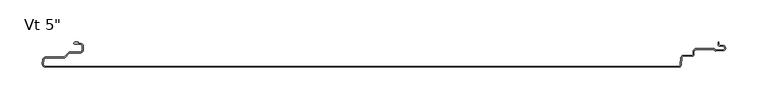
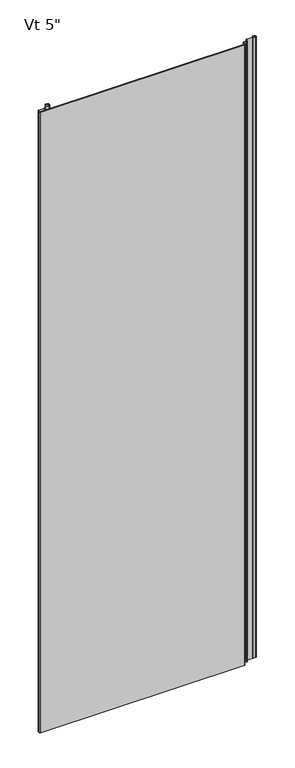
"""IFC4 building model written with IfcOpenShell, lengths in millimetres: plate geometry."""

from ifc_helpers import new_model, si_unit, point, frame_2d, origin, origin_with_axes, place, context, project, spatial, polyline, circle_curve, trimmed, segment, composite_curve, outline, extrude, source, transform, mapped, element, save


def plate_0270b506(model_context):
    return source(origin(), model_context, "Body", "SweptSolid", [
        extrude(outline(composite_curve([segment(polyline([(-417.0087549, -123.1184064), (-416.5690675, -118.094441)]), True, "CONTINUOUS"), segment(trimmed(circle_curve(frame_2d((-412.9198392, -118.7052421)), 3.6999926), [point((-416.5690675, -118.094441))], [point((-412.9198392, -115.0052495))], False, "CARTESIAN"), True, "CONTINUOUS"), segment(polyline([(-412.9198392, -115.0052495), (-391.7773997, -115.0052495)]), True, "CONTINUOUS"), segment(trimmed(circle_curve(frame_2d((-391.7773997, -113.7052521)), 1.2999974), [point((-391.7773997, -115.0052495))], [point((-390.8581627, -114.6244891))], True, "CARTESIAN"), True, "CONTINUOUS"), segment(polyline([(-390.8581627, -114.6244891), (-386.0297453, -109.7960716)]), True, "CONTINUOUS"), segment(trimmed(circle_curve(frame_2d((-384.1205608, -111.7052561)), 2.6999946), [point((-386.0297453, -109.7960716))], [point((-384.1205608, -109.0052615))], False, "CARTESIAN"), True, "CONTINUOUS"), segment(polyline([(-384.1205608, -109.0052615), (-372.3096717, -109.0052615)]), True, "CONTINUOUS"), segment(trimmed(circle_curve(frame_2d((-372.3096717, -106.6552662)), 2.3499953), [point((-372.3096717, -109.0052615))], [point((-369.9596764, -106.6552662))], True, "CARTESIAN"), True, "CONTINUOUS"), segment(polyline([(-369.9596764, -106.6552662), (-369.9596764, -102.255275)]), True, "CONTINUOUS"), segment(trimmed(circle_curve(frame_2d((-372.3096717, -102.255275)), 2.3499953), [point((-369.9596764, -102.255275))], [point((-372.3096717, -99.9052797))], True, "CARTESIAN"), True, "CONTINUOUS"), segment(polyline([(-372.3096717, -99.9052797), (-378.8289779, -99.9052797)]), True, "CONTINUOUS"), segment(trimmed(circle_curve(frame_2d((-378.7686908, -98.7067974)), 1.1999976), [point((-378.8289779, -99.9052797))], [point((-379.9683001, -98.6762755))], False, "CARTESIAN"), True, "CONTINUOUS"), segment(trimmed(circle_curve(frame_2d((-378.7686908, -98.7067974)), 1.1999976), [point((-379.9683001, -98.6762755))], [point((-378.7671761, -97.5068008))], False, "CARTESIAN"), True, "CONTINUOUS"), segment(polyline([(-378.7671761, -97.5068008), (-375.0087827, -97.5068008), (-375.0087827, -98.9052797), (-372.3096717, -98.9052797)]), True, "CONTINUOUS"), segment(trimmed(circle_curve(frame_2d((-372.3096717, -102.255275)), 3.3499953), [point((-372.3096717, -98.9052797))], [point((-368.9596764, -102.255275))], False, "CARTESIAN"), True, "CONTINUOUS"), segment(polyline([(-368.9596764, -102.255275), (-368.9596764, -106.6552662)]), True, "CONTINUOUS"), segment(trimmed(circle_curve(frame_2d((-372.3096717, -106.6552662)), 3.3499953), [point((-368.9596764, -106.6552662))], [point((-372.3096717, -110.0052615))], False, "CARTESIAN"), True, "CONTINUOUS"), segment(polyline([(-372.3096717, -110.0052615), (-384.1205608, -110.0052615)]), True, "CONTINUOUS"), segment(trimmed(circle_curve(frame_2d((-384.1205608, -111.7052561)), 1.6999946), [point((-384.1205608, -110.0052615))], [point((-385.3226385, -110.5031784))], True, "CARTESIAN"), True, "CONTINUOUS"), segment(polyline([(-385.3226385, -110.5031784), (-390.8247096, -116.0052495), (-412.9198392, -116.0052495)]), True, "CONTINUOUS"), segment(trimmed(circle_curve(frame_2d((-412.9198392, -118.7052421)), 2.6999926), [point((-412.9198392, -116.0052495))], [point((-415.5765709, -118.2238515))], True, "CARTESIAN"), True, "CONTINUOUS"), segment(polyline([(-415.5765709, -118.2238515), (-416.0125699, -123.2056723)]), True, "CONTINUOUS"), segment(trimmed(circle_curve(frame_2d((-413.4521176, -123.429758)), 2.5702393), [point((-416.0125699, -123.2056723))], [point((-413.509446, -125.9993578))], True, "CARTESIAN"), True, "CONTINUOUS"), segment(polyline([(-413.509446, -125.9993578), (332.5384359, -125.9993578)]), True, "CONTINUOUS"), segment(trimmed(circle_curve(frame_2d((332.5384359, -124.0493637)), 1.9499941), [point((332.5384359, -125.9993578))], [point((334.4810097, -124.2193169))], True, "CARTESIAN"), True, "CONTINUOUS"), segment(polyline([(334.4810097, -124.2193169), (335.2215397, -115.7550205)]), True, "CONTINUOUS"), segment(trimmed(circle_curve(frame_2d((338.2400056, -116.019102)), 3.0299959), [point((335.2215397, -115.7550205))], [point((338.3657441, -112.9917162))], False, "CARTESIAN"), True, "CONTINUOUS"), segment(polyline([(338.3657441, -112.9917162), (348.4586765, -112.9917162)]), True, "CONTINUOUS"), segment(trimmed(circle_curve(frame_2d((348.4595944, -112.0425632)), 0.9491534), [point((348.4586765, -112.9917162))], [point((349.4087478, -112.0425632))], True, "CARTESIAN"), True, "CONTINUOUS"), segment(polyline([(349.4087478, -112.0425632), (349.4087475, -108.9011631)]), True, "CONTINUOUS"), segment(trimmed(circle_curve(frame_2d((353.4087415, -108.9011631)), 3.999994), [point((349.4087475, -108.9011631))], [point((353.4087415, -104.9011691))], False, "CARTESIAN"), True, "CONTINUOUS"), segment(polyline([(353.4087415, -104.9011691), (374.5895515, -104.9011691), (375.7334028, -106.8823775), (384.706811, -106.5271172)]), True, "CONTINUOUS"), segment(trimmed(circle_curve(frame_2d((384.6236622, -104.4268886)), 2.1018739), [point((384.706811, -106.5271172))], [point((384.7037148, -102.3265397))], True, "CARTESIAN"), True, "CONTINUOUS"), segment(polyline([(384.7037148, -102.3265397), (380.6977997, -102.0821247)]), True, "CONTINUOUS"), segment(trimmed(circle_curve(frame_2d((380.8099653, -100.2437512)), 1.8417922), [point((380.6977997, -102.0821247))], [point((378.9686884, -100.2873122))], False, "CARTESIAN"), True, "CONTINUOUS"), segment(polyline([(378.9686884, -100.2873122), (378.9686884, -97.5027656), (379.9686884, -97.5027656), (379.9686884, -100.2731984)]), True, "CONTINUOUS"), segment(trimmed(circle_curve(frame_2d((380.8099653, -100.2437512)), 0.8417922), [point((379.9686884, -100.2731984))], [point((380.7587, -101.0839809))], True, "CARTESIAN"), True, "CONTINUOUS"), segment(polyline([(380.7587, -101.0839809), (384.7543204, -101.3277677)]), True, "CONTINUOUS"), segment(trimmed(circle_curve(frame_2d((384.6236622, -104.4268886)), 3.1018739), [point((384.7543204, -101.3277677))], [point((384.7463704, -107.5263344))], False, "CARTESIAN"), True, "CONTINUOUS"), segment(polyline([(384.7463704, -107.5263344), (376.0344401, -107.8712428)]), True, "CONTINUOUS"), segment(trimmed(circle_curve(frame_2d((375.987224, -106.4220146)), 1.4499971), [point((376.0344401, -107.8712428))], [point((374.7314897, -107.1470132))], False, "CARTESIAN"), True, "CONTINUOUS"), segment(polyline([(374.7314897, -107.1470132), (374.0122013, -105.9011691), (353.4087415, -105.9011691)]), True, "CONTINUOUS"), segment(trimmed(circle_curve(frame_2d((353.4087415, -108.9011631)), 2.999994), [point((353.4087415, -105.9011691))], [point((350.4087475, -108.9011631))], True, "CARTESIAN"), True, "CONTINUOUS"), segment(polyline([(350.4087475, -108.9011631), (350.4087475, -112.0425632)]), True, "CONTINUOUS"), segment(trimmed(circle_curve(frame_2d((348.4595944, -112.0425632)), 1.9491534), [point((350.4087475, -112.0425632))], [point((348.458279, -113.9917162))], False, "CARTESIAN"), True, "CONTINUOUS"), segment(polyline([(348.458279, -113.9917162), (338.3429135, -113.9917162)]), True, "CONTINUOUS"), segment(trimmed(circle_curve(frame_2d((338.2400056, -116.019102)), 2.0299959), [point((338.3429135, -113.9917162))], [point((336.2177344, -115.8421762))], True, "CARTESIAN"), True, "CONTINUOUS"), segment(polyline([(336.2177344, -115.8421762), (335.4771973, -124.3065539)]), True, "CONTINUOUS"), segment(trimmed(circle_curve(frame_2d((332.5384288, -124.049445)), 2.9499941), [point((335.4771973, -124.3065539))], [point((332.5384307, -126.9994391))], False, "CARTESIAN"), True, "CONTINUOUS"), segment(polyline([(332.5384307, -126.9994391), (-413.4521083, -126.9999161)]), True, "CONTINUOUS"), segment(trimmed(circle_curve(frame_2d((-413.4521105, -123.4296768)), 3.5702393), [point((-413.4521083, -126.9999161))], [point((-417.0087549, -123.1184064))], False, "CARTESIAN"), True, "CONTINUOUS")], self_intersect=False)), origin_with_axes(), (0.0, 0.0, 1.0), 2400.0),
    ])


if __name__ == "__main__":
    model = new_model("IFC4")
    model_context = context("Model", 3, world=origin())
    ifc_project = project(units=[si_unit("LENGTHUNIT", "METRE", prefix="MILLI")], contexts=[model_context])
    site = spatial("IfcSite", under=ifc_project)
    building = spatial("IfcBuilding", under=site)
    placement = place(None, origin())
    plate_shape = plate_0270b506(model_context)
    element("IfcPlate", 1, ObjectType="KIP-30-Karrier-KP-R19-CP-Vt-FL3-8_SL : Vt 5\"", at=placement, inside=building, context=model_context, shape_type="MappedRepresentation", body=[
        mapped(plate_shape, transform((0.0, 0.0, 0.0), x_axis=(1.0, 0.0, 0.0), y_axis=(0.0, 1.0, 0.0), z_axis=(0.0, 0.0, 1.0))),
    ])
    save(model, "model.ifc")
